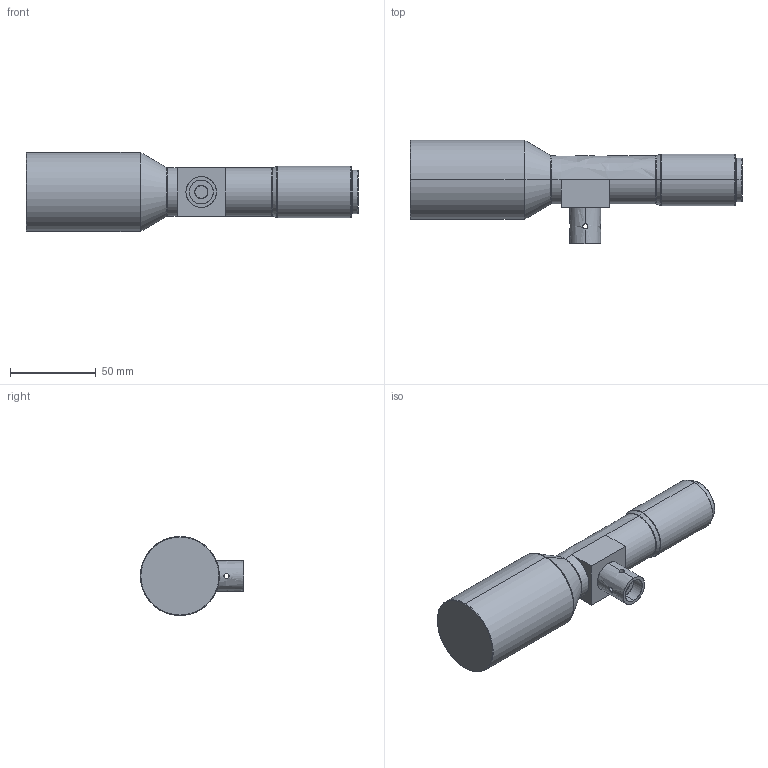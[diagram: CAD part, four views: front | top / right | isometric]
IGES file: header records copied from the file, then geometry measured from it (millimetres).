
Start section: SolidWorks IGES file using analytic representation for surfaces
Global section: file name: C:\Users\16255\Desktop\WWH098-280CT-230V2.IGS; native system: SolidWorks 2017; preprocessor: SolidWorks 2017; author: 16255; date: 211223.165107; units: millimetre
Bounding box: 193.2 x 60.1 x 46 mm (x, y, z)
Surface area: 26768.1 mm2 (no closed solid volume)
Topology: 0 solids, 0 shells, 55 faces, 1162 edges, 1162 vertices
Faces by surface type: revolution 35, bspline 20
